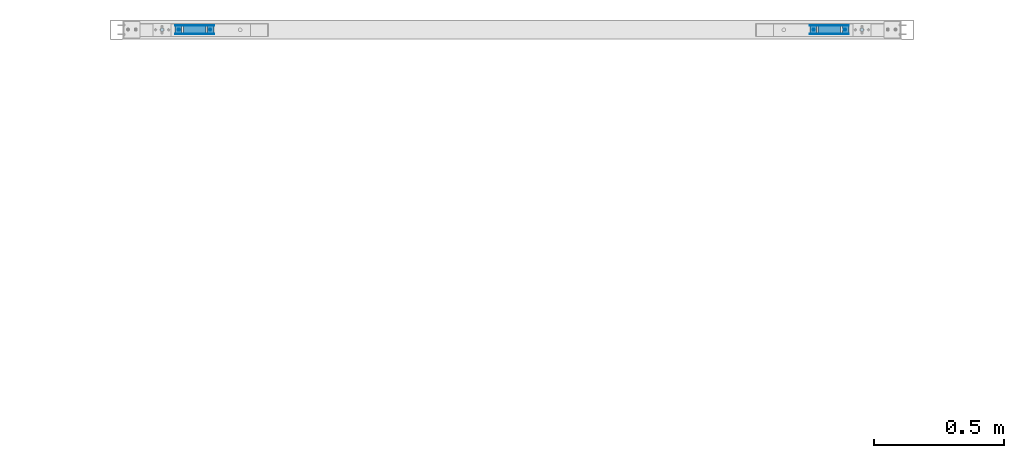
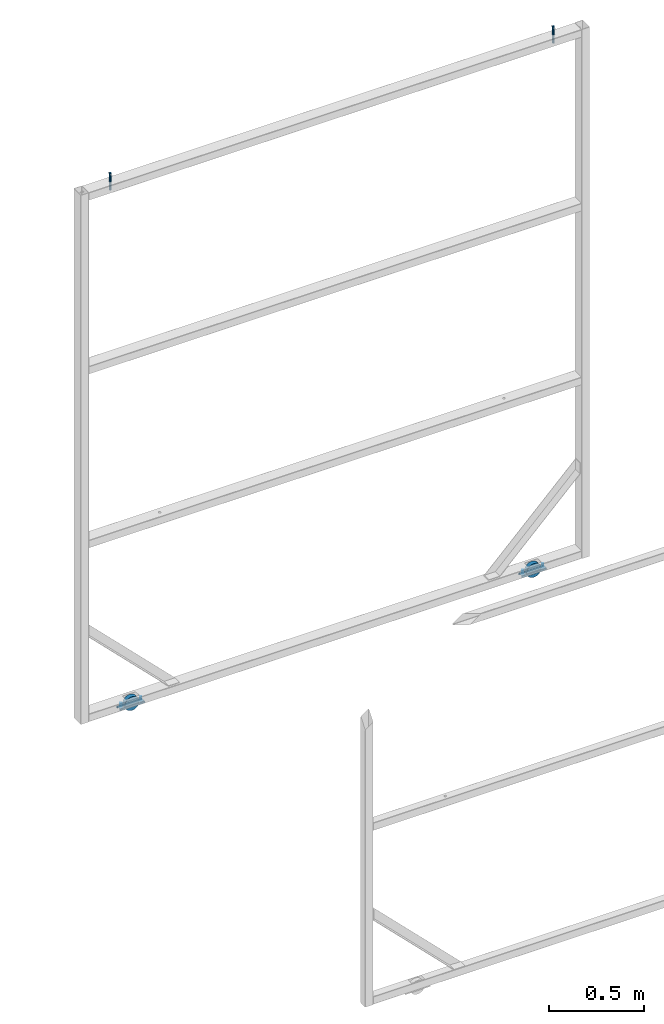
# One storey, part 23 of 91: 10 discrete accessories, 2 mechanical fasteners, 1 element without a shape of its own.
"""IFC2X3 building model written with IfcOpenShell, lengths in millimetres."""

import ifcopenshell
import ifcopenshell.guid

model = None  # the IFC model being written
_history = None  # IfcOwnerHistory: only IFC2X3 demands one
_inside = {}  # id of a spatial element -> (the spatial element, [elements in it])
_under = {}  # id of a project, library or spatial element -> (it, [spatial elements below it])
_declared = {}  # id of a project -> (the project, [libraries it declares])
_typed = {}  # id of a type object -> (the type object, [elements of that type])
_made_of = {}  # id of a material, layer set ... -> (it, [elements and type objects made of it])


def new_model(schema):
    """Start an empty IFC model of exactly this schema.

    Asked for "IFC4X3", IfcOpenShell would pick the latest addendum, in which some entities
    have other attributes; the version numbers below select the first issue.
    IFC2X3 requires an IfcOwnerHistory on every rooted entity: one is made here for all.
    """
    global model, _history
    if schema == "IFC4X3":
        model = ifcopenshell.file(schema_version=(4, 3, 0, 0))
    else:
        model = ifcopenshell.file(schema=schema)
    _inside.clear()
    _under.clear()
    _declared.clear()
    _typed.clear()
    _made_of.clear()
    _history = None
    if model.schema == "IFC2X3":
        org = make("IfcOrganization", Name="unknown")
        user = make(
            "IfcPersonAndOrganization",
            ThePerson=make("IfcPerson", FamilyName="unknown"),
            TheOrganization=org,
        )
        app = make(
            "IfcApplication",
            ApplicationDeveloper=org,
            Version="unknown",
            ApplicationFullName="unknown",
            ApplicationIdentifier="unknown",
        )
        _history = make(
            "IfcOwnerHistory",
            OwningUser=user,
            OwningApplication=app,
            ChangeAction="ADDED",
            CreationDate=0,
        )
    return model


def make(cls, **values):
    """One entity of the class cls with the attributes given. An attribute that is None is left unset."""
    return model.create_entity(
        cls, **{name: value for name, value in values.items() if value is not None}
    )


def rooted(cls, **values):
    """An entity with a GlobalId (a new one), such as an element, a storey or a relation."""
    return make(cls, GlobalId=ifcopenshell.guid.new(), OwnerHistory=_history, **values)


def si_unit(unit_type, name, prefix=None):
    """IfcSIUnit, for example si_unit("LENGTHUNIT", "METRE", prefix="MILLI")."""
    return make("IfcSIUnit", UnitType=unit_type, Prefix=prefix, Name=name)


def assignment(units):
    """IfcUnitAssignment: the units of a project."""
    return None if units is None else make("IfcUnitAssignment", Units=units)


def point(xyz):
    """IfcCartesianPoint."""
    return None if xyz is None else make("IfcCartesianPoint", Coordinates=xyz)


def direction(xyz):
    """IfcDirection."""
    return None if xyz is None else make("IfcDirection", DirectionRatios=xyz)


def frame(location, z_axis=None, x_axis=None):
    """IfcAxis2Placement3D, a coordinate frame: its origin and axes. An axis left out is left unset."""
    return make(
        "IfcAxis2Placement3D",
        Location=point(location),
        Axis=direction(z_axis),
        RefDirection=direction(x_axis),
    )


def frame_2d(location, x_axis=None):
    """IfcAxis2Placement2D, a coordinate frame in the plane: its origin and x axis."""
    return make(
        "IfcAxis2Placement2D", Location=point(location), RefDirection=direction(x_axis)
    )


def origin_with_axes():
    """The frame at (0, 0, 0) with the z axis (0, 0, 1) and the x axis (1, 0, 0) written out."""
    return frame((0.0, 0.0, 0.0), z_axis=(0.0, 0.0, 1.0), x_axis=(1.0, 0.0, 0.0))


def origin_2d_with_axis():
    """The frame at (0, 0) in the plane with the x axis (1, 0) written out."""
    return frame_2d((0.0, 0.0), x_axis=(1.0, 0.0))


def place(relative_to, where):
    """IfcLocalPlacement: puts the frame where relative to a parent placement (None: the world)."""
    return make(
        "IfcLocalPlacement", PlacementRelTo=relative_to, RelativePlacement=where
    )


def context(
    kind, dimensions, precision=None, world=None, true_north=None, identifier=None
):
    """IfcGeometricRepresentationContext, for example the 3D "Model" context."""
    return make(
        "IfcGeometricRepresentationContext",
        ContextIdentifier=identifier,
        ContextType=kind,
        CoordinateSpaceDimension=dimensions,
        Precision=precision,
        WorldCoordinateSystem=world,
        TrueNorth=true_north,
    )


def subcontext(parent, identifier, kind, view, scale=None):
    """IfcGeometricRepresentationSubContext, for example "Body" below "Model"."""
    return make(
        "IfcGeometricRepresentationSubContext",
        ContextIdentifier=identifier,
        ContextType=kind,
        ParentContext=parent,
        TargetScale=scale,
        TargetView=view,
    )


def project(units=None, contexts=None):
    """IfcProject with its units and contexts."""
    return rooted(
        "IfcProject",
        Name="project",
        RepresentationContexts=contexts,
        UnitsInContext=assignment(units),
    )


def spatial(cls, under=None, at=None, **own):
    """A site, building, storey or space (cls), placed at a placement, below another one or the project."""
    s = rooted(cls, ObjectPlacement=at, **own)
    if under is not None:
        _under.setdefault(under.id(), (under, []))[1].append(s)
    return s


def polyline(points):
    """IfcPolyline through the points."""
    return make("IfcPolyline", Points=[point(p) for p in points])


def profile(cls, at=None, kind="AREA", **sizes):
    """A parametric profile (cls). Its sizes go by their IFC names, for example OverallWidth=200.0."""
    return make(cls, ProfileType=kind, Position=at, **sizes)


def circle(**sizes):
    """IfcCircleProfileDef."""
    return profile("IfcCircleProfileDef", **sizes)


def outline(outer, holes=None, kind="AREA"):
    """IfcArbitraryClosedProfileDef: a profile drawn as a closed curve; with holes, ...WithVoids."""
    if holes is None:
        return make("IfcArbitraryClosedProfileDef", ProfileType=kind, OuterCurve=outer)
    return make(
        "IfcArbitraryProfileDefWithVoids",
        ProfileType=kind,
        OuterCurve=outer,
        InnerCurves=holes,
    )


def extrude(swept, where, along, depth):
    """IfcExtrudedAreaSolid: the profile swept, set in the frame where, extruded along a direction by depth."""
    return make(
        "IfcExtrudedAreaSolid",
        SweptArea=swept,
        Position=where,
        ExtrudedDirection=direction(along),
        Depth=depth,
    )


def boolean(op, a, b):
    """IfcBooleanResult of two solids."""
    return make("IfcBooleanResult", Operator=op, FirstOperand=a, SecondOperand=b)


def shape(context_of_items, identifier, shape_type, items):
    """IfcShapeRepresentation: the items that make up one representation, for example the "Body"."""
    return make(
        "IfcShapeRepresentation",
        ContextOfItems=context_of_items,
        RepresentationIdentifier=identifier,
        RepresentationType=shape_type,
        Items=items,
    )


def source(mapping_origin, context_of_items, identifier, shape_type, items):
    """IfcRepresentationMap: a shape defined once, which mapped items show again and again."""
    return make(
        "IfcRepresentationMap",
        MappingOrigin=mapping_origin,
        MappedRepresentation=shape(context_of_items, identifier, shape_type, items),
    )


def transform(
    local_origin,
    x_axis=None,
    y_axis=None,
    z_axis=None,
    scale=None,
    scale2=None,
    scale3=None,
    uniform=True,
):
    """IfcCartesianTransformationOperator3D, or its non-uniform kind. x_axis, y_axis, z_axis: its Axis1, 2, 3."""
    if uniform:
        return make(
            "IfcCartesianTransformationOperator3D",
            Axis1=direction(x_axis),
            Axis2=direction(y_axis),
            LocalOrigin=point(local_origin),
            Scale=scale,
            Axis3=direction(z_axis),
        )
    return make(
        "IfcCartesianTransformationOperator3DnonUniform",
        Axis1=direction(x_axis),
        Axis2=direction(y_axis),
        LocalOrigin=point(local_origin),
        Scale=scale,
        Axis3=direction(z_axis),
        Scale2=scale2,
        Scale3=scale3,
    )


def mapped(mapping_source, mapping_target):
    """IfcMappedItem: shows the shape of a source again, moved by a transform."""
    return make(
        "IfcMappedItem", MappingSource=mapping_source, MappingTarget=mapping_target
    )


def material(Name=None, Category=None):
    """IfcMaterial."""
    return make("IfcMaterial", Name=Name, Category=Category)


def made_of(thing, what):
    """Note that an element or type object is made of a material, layer set ...; save() writes the relation."""
    if what is not None:
        _made_of.setdefault(what.id(), (what, []))[1].append(thing)
    return thing


def type_object(cls, material=None, **own):
    """A type object (cls), such as IfcWallType, which elements share."""
    return made_of(rooted(cls, **own), material)


def element(
    cls,
    number,
    at=None,
    inside=None,
    cuts=None,
    type_object=None,
    material=None,
    context=None,
    identifier="Body",
    shape_type=None,
    held_by="IfcProductDefinitionShape",
    body=None,
    shapes=None,
    **own,
):
    """One element of the class cls, such as IfcWall. Its Tag is "e" and its number.

    at: its placement. inside: the storey or other place that contains it. cuts: it is an
    opening in that element (IfcRelVoidsElement). A single representation is given by context,
    identifier, shape_type and body (its items); several are given by shapes. held_by: the class
    of the entity that holds the representations. save() writes the other relations.
    """
    e = rooted(cls, Tag="e%d" % number, ObjectPlacement=at, **own)
    if body is not None:
        shapes = [shape(context, identifier, shape_type, body)]
    if shapes is not None:
        e.Representation = make(held_by, Representations=shapes)
    if inside is not None:
        _inside.setdefault(inside.id(), (inside, []))[1].append(e)
    if cuts is not None:
        rooted(
            "IfcRelVoidsElement", RelatingBuildingElement=cuts, RelatedOpeningElement=e
        )
    if type_object is not None:
        _typed.setdefault(type_object.id(), (type_object, []))[1].append(e)
    return made_of(e, material)


def aggregate(whole, parts):
    """IfcRelAggregates: a whole, such as a stair, and the parts it consists of."""
    return rooted("IfcRelAggregates", RelatingObject=whole, RelatedObjects=parts)


def save(model, path):
    """Write the relations noted so far, then the file.

    IfcRelAggregates (storeys below a building ...), IfcRelContainedInSpatialStructure (elements
    in a storey), IfcRelDefinesByType, IfcRelAssociatesMaterial and IfcRelDeclares: one each for
    every whole, place, type object, material and project.
    """
    for whole, parts in _under.values():
        aggregate(whole, parts)
    for where, things in _inside.values():
        rooted(
            "IfcRelContainedInSpatialStructure",
            RelatedElements=things,
            RelatingStructure=where,
        )
    for kind, things in _typed.values():
        rooted("IfcRelDefinesByType", RelatedObjects=things, RelatingType=kind)
    for what, things in _made_of.values():
        rooted("IfcRelAssociatesMaterial", RelatedObjects=things, RelatingMaterial=what)
    for by, libraries in _declared.values():
        rooted("IfcRelDeclares", RelatingContext=by, RelatedDefinitions=libraries)
    model.write(path)


model = new_model("IFC2X3")

# Units and contexts
model_context = context("Model", 3, precision=1e-05, world=origin_with_axes())
body_context = subcontext(model_context, "Body", "Model", "MODEL_VIEW")
ifc_project = project(units=[si_unit("LENGTHUNIT", "METRE", prefix="MILLI"), si_unit("AREAUNIT", "SQUARE_METRE"), si_unit("VOLUMEUNIT", "CUBIC_METRE"), si_unit("MASSUNIT", "GRAM", prefix="KILO"), si_unit("TIMEUNIT", "SECOND"), si_unit("PLANEANGLEUNIT", "RADIAN"), si_unit("SOLIDANGLEUNIT", "STERADIAN"), si_unit("THERMODYNAMICTEMPERATUREUNIT", "DEGREE_CELSIUS"), si_unit("LUMINOUSINTENSITYUNIT", "LUMEN")], contexts=[model_context])

# Site, building, storey
site_placement = place(None, origin_with_axes())
site = spatial("IfcSite", under=ifc_project, at=site_placement, Name="Undefined", CompositionType="ELEMENT")
building_placement = place(site_placement, origin_with_axes())
building = spatial("IfcBuilding", under=site, at=building_placement, Name="Undefined", CompositionType="ELEMENT")
storey_placement = place(building_placement, origin_with_axes())
storey = spatial("IfcBuildingStorey", under=building, at=storey_placement, Name="Undefined", CompositionType="ELEMENT", Elevation=0.0)

# Assembly, discrete accessories, mechanical fasteners
assembly_placement = place(storey_placement, origin_with_axes())
assembly = element("IfcElementAssembly", 1, at=assembly_placement, inside=storey, Name="Sliding Door Beam", AssemblyPlace="NOTDEFINED", PredefinedType="RIGID_FRAME")
ifc_material_1 = material(Name="STEEL/250")
discrete_accessory_type_1 = type_object("IfcDiscreteAccessoryType", Name="PLATE")
discrete_accessory_1_placement = place(assembly_placement, frame((-110951.29, 93364.5, -19.0), z_axis=(0.0, -1.0, 0.0), x_axis=(0.0, 0.0, -1.0)))
discrete_accessory_1 = element("IfcDiscreteAccessory", 2, at=discrete_accessory_1_placement, type_object=discrete_accessory_type_1, material=ifc_material_1, Name="PLATE", ObjectType="PLT2*10", context=body_context, shape_type="SweptSolid", body=[
    extrude(outline(polyline([(0.0, 0.0), (10.0, 0.0), (10.0, 150.0), (0.0, 150.0), (0.0, 0.0)])), frame((0.0, 0.0, -1.0), z_axis=(0.0, 0.0, 1.0), x_axis=(1.0, 0.0, 0.0)), (0.0, 0.0, 1.0), 2.0),
])
discrete_accessory_2_placement = place(assembly_placement, frame((-110951.29, 93395.5, -19.0), z_axis=(0.0, -1.0, 0.0), x_axis=(0.0, 0.0, -1.0)))
discrete_accessory_2 = element("IfcDiscreteAccessory", 3, at=discrete_accessory_2_placement, type_object=discrete_accessory_type_1, material=ifc_material_1, Name="PLATE", ObjectType="PLT2*10", context=body_context, shape_type="SweptSolid", body=[
    extrude(outline(polyline([(0.0, 0.0), (10.0, 0.0), (10.0, 150.0), (0.0, 150.0), (0.0, 0.0)])), frame((0.0, 0.0, -1.0), z_axis=(0.0, 0.0, 1.0), x_axis=(1.0, 0.0, 0.0)), (0.0, 0.0, 1.0), 2.0),
])
discrete_accessory_3_placement = place(assembly_placement, frame((-113388.79, 93364.5, -19.0), z_axis=(0.0, -1.0, 0.0), x_axis=(0.0, 0.0, -1.0)))
discrete_accessory_3 = element("IfcDiscreteAccessory", 4, at=discrete_accessory_3_placement, type_object=discrete_accessory_type_1, material=ifc_material_1, Name="PLATE", ObjectType="PLT2*10", context=body_context, shape_type="SweptSolid", body=[
    extrude(outline(polyline([(0.0, 0.0), (10.0, 0.0), (10.0, 150.0), (0.0, 150.0), (0.0, 0.0)])), frame((0.0, 0.0, -1.0), z_axis=(0.0, 0.0, 1.0), x_axis=(1.0, 0.0, 0.0)), (0.0, 0.0, 1.0), 2.0),
])
discrete_accessory_4_placement = place(assembly_placement, frame((-113388.79, 93395.5, -19.0), z_axis=(0.0, -1.0, 0.0), x_axis=(0.0, 0.0, -1.0)))
discrete_accessory_4 = element("IfcDiscreteAccessory", 5, at=discrete_accessory_4_placement, type_object=discrete_accessory_type_1, material=ifc_material_1, Name="PLATE", ObjectType="PLT2*10", context=body_context, shape_type="SweptSolid", body=[
    extrude(outline(polyline([(0.0, 0.0), (10.0, 0.0), (10.0, 150.0), (0.0, 150.0), (0.0, 0.0)])), frame((0.0, 0.0, -1.0), z_axis=(0.0, 0.0, 1.0), x_axis=(1.0, 0.0, 0.0)), (0.0, 0.0, 1.0), 2.0),
])
discrete_accessory_5_placement = place(assembly_placement, frame((-110951.29, 93363.5, -18.0), z_axis=(0.0, 0.0, -1.0), x_axis=(0.0, 1.0, 0.0)))
discrete_accessory_5 = element("IfcDiscreteAccessory", 6, at=discrete_accessory_5_placement, type_object=discrete_accessory_type_1, material=ifc_material_1, Name="PLATE", ObjectType="PLT2*33", context=body_context, shape_type="CSG", body=[
    boolean("DIFFERENCE", extrude(outline(polyline([(0.0, 0.0), (33.0, 0.0), (33.0, 150.0), (0.0, 150.0), (0.0, 0.0)])), frame((0.0, 0.0, -1.0), z_axis=(0.0, 0.0, 1.0), x_axis=(1.0, 0.0, 0.0)), (0.0, 0.0, 1.0), 2.0), extrude(outline(polyline([(0.0, 0.0), (27.0, 0.0), (27.0, 100.0), (0.0, 100.0), (0.0, 0.0)])), frame((30.0037103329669, 25.0032500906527, 3.5), z_axis=(0.0, 0.0, -1.0), x_axis=(-1.0, 0.0, 0.0)), (0.0, 0.0, 1.0), 7.0)),
])
discrete_accessory_6_placement = place(assembly_placement, frame((-113388.79, 93363.5, -18.0), z_axis=(0.0, 0.0, -1.0), x_axis=(0.0, 1.0, 0.0)))
discrete_accessory_6 = element("IfcDiscreteAccessory", 7, at=discrete_accessory_6_placement, type_object=discrete_accessory_type_1, material=ifc_material_1, Name="PLATE", ObjectType="PLT2*33", context=body_context, shape_type="CSG", body=[
    boolean("DIFFERENCE", extrude(outline(polyline([(0.0, 0.0), (33.0, 0.0), (33.0, 150.0), (0.0, 150.0), (0.0, 0.0)])), frame((0.0, 0.0, -1.0), z_axis=(0.0, 0.0, 1.0), x_axis=(1.0, 0.0, 0.0)), (0.0, 0.0, 1.0), 2.0), extrude(outline(polyline([(0.0, 0.0), (27.0, 0.0), (27.0, 100.0), (0.0, 100.0), (0.0, 0.0)])), frame((30.0037103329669, 25.0032500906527, 3.5), z_axis=(0.0, 0.0, -1.0), x_axis=(-1.0, 0.0, 0.0)), (0.0, 0.0, 1.0), 7.0)),
])
ifc_material_2 = material(Name="TEK_11TPIM")
discrete_accessory_type_2 = type_object("IfcDiscreteAccessoryType", Name="Bolt assembly")
shared_shape = source(origin_with_axes(), body_context, "Body", "SweptSolid", [
    extrude(circle(Radius=3.0, at=origin_2d_with_axis()), frame((0.0, 0.0, 0.0), z_axis=(0.0, 1.0, 0.0), x_axis=(1.0, 0.0, 0.0)), (0.0, 0.0, 1.0), 2.1),
    extrude(outline(polyline([(4.61880215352, 0.0), (2.30940107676, 4.00000000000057), (-2.30940107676, 4.00000000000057), (-4.61880215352, 0.0), (-2.30940107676, -4.00000000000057), (2.30940107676, -4.00000000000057), (4.61880215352, 0.0)])), frame((0.0, -5.10000000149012, 0.0), z_axis=(0.0, 1.0, 0.0), x_axis=(1.0, 0.0, 0.0)), (0.0, 0.0, 1.0), 5.0),
    extrude(circle(Radius=3.0, at=origin_2d_with_axis()), frame((0.0, -0.100000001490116, 0.0), z_axis=(0.0, 1.0, 0.0), x_axis=(1.0, 0.0, 0.0)), (0.0, 0.0, 1.0), 25.0),
    extrude(circle(Radius=3.0, at=origin_2d_with_axis()), frame((0.0, -0.100000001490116, 0.0), z_axis=(0.0, 1.0, 0.0), x_axis=(1.0, 0.0, 0.0)), (0.0, 0.0, 1.0), 0.1),
    extrude(circle(Radius=3.0, at=origin_2d_with_axis()), frame((0.0, 2.00000000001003, 0.0), z_axis=(0.0, 1.0, 0.0), x_axis=(1.0, 0.0, 0.0)), (0.0, 0.0, 1.0), 0.1),
    extrude(outline(polyline([(3.46410161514, 0.0), (1.73205080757, 3.00000000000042), (-1.73205080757, 3.00000000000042), (-3.46410161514, 0.0), (-1.73205080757, -3.00000000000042), (1.73205080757, -3.00000000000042), (3.46410161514, 0.0)])), frame((0.0, 2.10000000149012, 0.0), z_axis=(0.0, 1.0, 0.0), x_axis=(1.0, 0.0, 0.0)), (0.0, 0.0, 1.0), 0.1),
])
mechanical_fastener_1_placement = place(assembly_placement, frame((-110816.29, 93380.0, -19.0), z_axis=(0.0, 1.0, 0.0), x_axis=(-1.0, 0.0, 0.0)))
mechanical_fastener_1 = element("IfcMechanicalFastener", 8, at=mechanical_fastener_1_placement, type_object=discrete_accessory_type_2, material=ifc_material_2, Name="Bolt assembly", NominalDiameter=6.0, NominalLength=25.0, context=body_context, shape_type="MappedRepresentation", body=[
    mapped(shared_shape, transform((0.0, 0.0, 0.0))),
    mapped(shared_shape, transform((120.0, 0.0, 0.0))),
])
mechanical_fastener_2_placement = place(assembly_placement, frame((-113253.79, 93380.0, -19.0), z_axis=(0.0, 1.0, 0.0), x_axis=(-1.0, 0.0, 0.0)))
mechanical_fastener_2 = element("IfcMechanicalFastener", 9, at=mechanical_fastener_2_placement, type_object=discrete_accessory_type_2, material=ifc_material_2, Name="Bolt assembly", NominalDiameter=6.0, NominalLength=25.0, context=body_context, shape_type="MappedRepresentation", body=[
    mapped(shared_shape, transform((0.0, 0.0, 0.0))),
    mapped(shared_shape, transform((120.0, 0.0, 0.0))),
])
discrete_accessory_type_3 = type_object("IfcDiscreteAccessoryType", Name="DB-BU90")
discrete_accessory_7_placement = place(assembly_placement, frame((-110876.29, 93392.5009765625, -10.0), z_axis=(1.0, 0.0, 0.0), x_axis=(0.0, -1.0, 0.0)))
discrete_accessory_7 = element("IfcDiscreteAccessory", 10, at=discrete_accessory_7_placement, type_object=discrete_accessory_type_3, material=ifc_material_1, Name="DB-BU90", ObjectType="D88", context=body_context, shape_type="SweptSolid", body=[
    extrude(circle(Radius=44.0, at=origin_2d_with_axis()), frame((25.0, 0.0, 0.0), z_axis=(-1.0, 0.0, 0.0), x_axis=(0.0, -1.0, 0.0)), (0.0, 0.0, 1.0), 25.0),
])
discrete_accessory_8_placement = place(assembly_placement, frame((-113313.79, 93392.5009765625, -10.0), z_axis=(1.0, 0.0, 0.0), x_axis=(0.0, -1.0, 0.0)))
discrete_accessory_8 = element("IfcDiscreteAccessory", 11, at=discrete_accessory_8_placement, type_object=discrete_accessory_type_3, material=ifc_material_1, Name="DB-BU90", ObjectType="D88", context=body_context, shape_type="SweptSolid", body=[
    extrude(circle(Radius=44.0, at=origin_2d_with_axis()), frame((25.0, 0.0, 0.0), z_axis=(-1.0, 0.0, 0.0), x_axis=(0.0, -1.0, 0.0)), (0.0, 0.0, 1.0), 25.0),
])
discrete_accessory_type_4 = type_object("IfcDiscreteAccessoryType", Name="ROD")
discrete_accessory_9_placement = place(assembly_placement, frame((-110751.29, 93380.0, 3320.0), z_axis=(0.0, 0.0, 1.0), x_axis=(1.0, 0.0, 0.0)))
discrete_accessory_9 = element("IfcDiscreteAccessory", 12, at=discrete_accessory_9_placement, type_object=discrete_accessory_type_4, material=ifc_material_1, Name="ROD", ObjectType="D12", context=body_context, shape_type="CSG", body=[
    boolean("DIFFERENCE", extrude(circle(Radius=6.0, at=origin_2d_with_axis()), frame((0.0, 0.0, 110.0), z_axis=(0.0, 0.0, -1.0), x_axis=(0.0, 1.0, 0.0)), (0.0, 0.0, 1.0), 110.0), extrude(circle(Radius=3.5, at=origin_2d_with_axis()), frame((0.0, 15.0, 101.0), z_axis=(0.0, -1.0, 0.0), x_axis=(0.0, 0.0, -1.0)), (0.0, 0.0, 1.0), 30.0)),
])
discrete_accessory_10_placement = place(assembly_placement, frame((-113438.79, 93380.0, 3320.0), z_axis=(0.0, 0.0, 1.0), x_axis=(1.0, 0.0, 0.0)))
discrete_accessory_10 = element("IfcDiscreteAccessory", 13, at=discrete_accessory_10_placement, type_object=discrete_accessory_type_4, material=ifc_material_1, Name="ROD", ObjectType="D12", context=body_context, shape_type="CSG", body=[
    boolean("DIFFERENCE", extrude(circle(Radius=6.0, at=origin_2d_with_axis()), frame((0.0, 0.0, 110.0), z_axis=(0.0, 0.0, -1.0), x_axis=(0.0, 1.0, 0.0)), (0.0, 0.0, 1.0), 110.0), extrude(circle(Radius=3.5, at=origin_2d_with_axis()), frame((0.0, 15.0, 101.0), z_axis=(0.0, -1.0, 0.0), x_axis=(0.0, 0.0, -1.0)), (0.0, 0.0, 1.0), 30.0)),
])
aggregate(assembly, [mechanical_fastener_1, mechanical_fastener_2, discrete_accessory_1, discrete_accessory_2, discrete_accessory_7, discrete_accessory_3, discrete_accessory_4, discrete_accessory_8, discrete_accessory_5, discrete_accessory_9, discrete_accessory_10, discrete_accessory_6])

save(model, "model.ifc")
